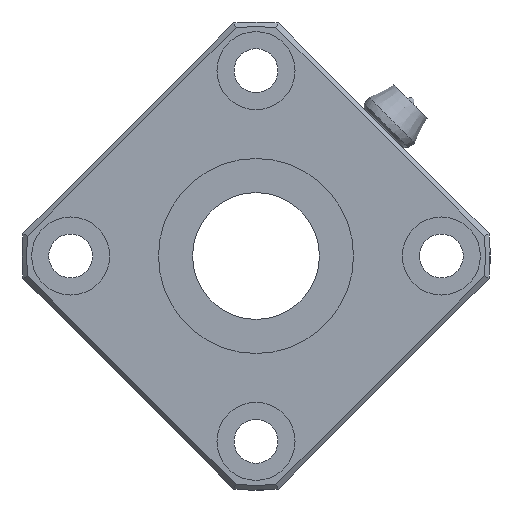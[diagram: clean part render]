
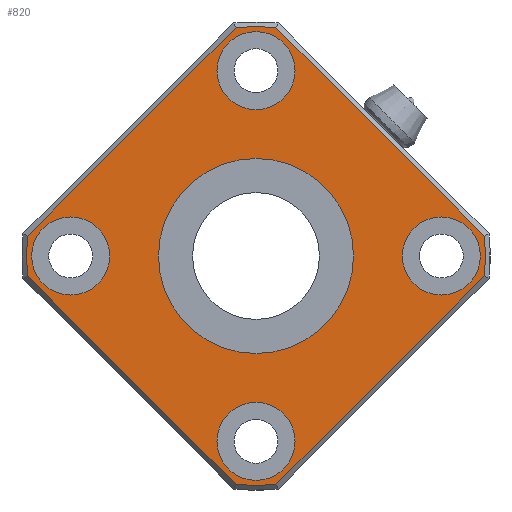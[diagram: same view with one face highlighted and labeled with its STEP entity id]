
A CAD part, left-side view. The second image highlights one B-rep face of the part: STEP entity #820.
In plain terms, the highlighted planar face has unit normal (-1, 0, 0).
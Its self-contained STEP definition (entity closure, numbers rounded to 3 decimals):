
#499=CARTESIAN_POINT('',(0.0,-23.411,-2.045));
#500=VERTEX_POINT('',#499);
#508=CARTESIAN_POINT('',(0.0,-2.045,-23.411));
#509=VERTEX_POINT('',#508);
#510=CARTESIAN_POINT('',(0.0,-23.411,-2.045));
#511=DIRECTION('',(0.0,0.707,-0.707));
#512=VECTOR('',#511,30.216);
#513=LINE('',#510,#512);
#514=EDGE_CURVE('',#500,#509,#513,.T.);
#541=CARTESIAN_POINT('',(0.0,2.045,-23.411));
#542=VERTEX_POINT('',#541);
#543=CARTESIAN_POINT('',(0.0,0.0,0.0));
#544=DIRECTION('',(1.0,0.0,0.0));
#545=DIRECTION('',(0.0,0.0,-1.0));
#546=AXIS2_PLACEMENT_3D('',#543,#544,#545);
#547=CIRCLE('',#546,23.5);
#548=EDGE_CURVE('',#509,#542,#547,.T.);
#572=CARTESIAN_POINT('',(0.0,23.411,-2.045));
#573=VERTEX_POINT('',#572);
#574=CARTESIAN_POINT('',(0.0,2.045,-23.411));
#575=DIRECTION('',(0.0,0.707,0.707));
#576=VECTOR('',#575,30.216);
#577=LINE('',#574,#576);
#578=EDGE_CURVE('',#542,#573,#577,.T.);
#597=CARTESIAN_POINT('',(0.0,23.411,2.045));
#598=VERTEX_POINT('',#597);
#599=CARTESIAN_POINT('',(0.0,0.0,0.0));
#600=DIRECTION('',(1.0,0.0,0.0));
#601=DIRECTION('',(0.0,0.0,1.0));
#602=AXIS2_PLACEMENT_3D('',#599,#600,#601);
#603=CIRCLE('',#602,23.5);
#604=EDGE_CURVE('',#573,#598,#603,.T.);
#623=CARTESIAN_POINT('',(0.0,2.045,23.411));
#624=VERTEX_POINT('',#623);
#625=CARTESIAN_POINT('',(0.0,23.411,2.045));
#626=DIRECTION('',(0.0,-0.707,0.707));
#627=VECTOR('',#626,30.216);
#628=LINE('',#625,#627);
#629=EDGE_CURVE('',#598,#624,#628,.T.);
#648=CARTESIAN_POINT('',(0.0,-2.045,23.411));
#649=VERTEX_POINT('',#648);
#650=CARTESIAN_POINT('',(0.0,0.0,0.0));
#651=DIRECTION('',(1.0,0.0,0.0));
#652=DIRECTION('',(0.0,0.0,1.0));
#653=AXIS2_PLACEMENT_3D('',#650,#651,#652);
#654=CIRCLE('',#653,23.5);
#655=EDGE_CURVE('',#624,#649,#654,.T.);
#674=CARTESIAN_POINT('',(0.0,-23.411,2.045));
#675=VERTEX_POINT('',#674);
#676=CARTESIAN_POINT('',(0.0,-2.045,23.411));
#677=DIRECTION('',(0.0,-0.707,-0.707));
#678=VECTOR('',#677,30.216);
#679=LINE('',#676,#678);
#680=EDGE_CURVE('',#649,#675,#679,.T.);
#705=CARTESIAN_POINT('',(0.0,0.0,0.0));
#706=DIRECTION('',(1.0,0.0,0.0));
#707=DIRECTION('',(0.0,0.0,1.0));
#708=AXIS2_PLACEMENT_3D('',#705,#706,#707);
#709=CIRCLE('',#708,23.5);
#710=EDGE_CURVE('',#675,#500,#709,.T.);
#750=CARTESIAN_POINT('',(0.0,0.0,12.));
#751=DIRECTION('',(-1.0,0.0,0.0));
#752=DIRECTION('',(0.0,0.0,1.0));
#753=AXIS2_PLACEMENT_3D('',#750,#751,#752);
#754=PLANE('',#753);
#755=ORIENTED_EDGE('',*,*,#514,.F.);
#756=ORIENTED_EDGE('',*,*,#710,.F.);
#757=ORIENTED_EDGE('',*,*,#680,.F.);
#758=ORIENTED_EDGE('',*,*,#655,.F.);
#759=ORIENTED_EDGE('',*,*,#629,.F.);
#760=ORIENTED_EDGE('',*,*,#604,.F.);
#761=ORIENTED_EDGE('',*,*,#578,.F.);
#762=ORIENTED_EDGE('',*,*,#548,.F.);
#763=EDGE_LOOP('',(#755,#756,#757,#758,#759,#760,#761,#762));
#764=FACE_OUTER_BOUND('',#763,.T.);
#765=CARTESIAN_POINT('',(0.0,0.0,10.));
#766=VERTEX_POINT('',#765);
#767=CARTESIAN_POINT('',(0.0,0.0,0.0));
#768=DIRECTION('',(-1.0,0.0,0.0));
#769=DIRECTION('',(0.0,0.0,1.0));
#770=AXIS2_PLACEMENT_3D('',#767,#768,#769);
#771=CIRCLE('',#770,10.);
#772=EDGE_CURVE('',#766,#766,#771,.T.);
#773=ORIENTED_EDGE('',*,*,#772,.F.);
#774=EDGE_LOOP('',(#773));
#775=FACE_BOUND('',#774,.T.);
#776=CARTESIAN_POINT('',(0.0,-15.0,0.));
#777=VERTEX_POINT('',#776);
#778=CARTESIAN_POINT('',(0.0,-19.0,0.));
#779=DIRECTION('',(1.0,0.0,0.0));
#780=DIRECTION('',(0.0,1.0,0.0));
#781=AXIS2_PLACEMENT_3D('',#778,#779,#780);
#782=CIRCLE('',#781,4.0);
#783=EDGE_CURVE('',#777,#777,#782,.T.);
#784=ORIENTED_EDGE('',*,*,#783,.T.);
#785=EDGE_LOOP('',(#784));
#786=FACE_BOUND('',#785,.T.);
#787=CARTESIAN_POINT('',(0.0,23.,0.));
#788=VERTEX_POINT('',#787);
#789=CARTESIAN_POINT('',(0.0,19.0,0.));
#790=DIRECTION('',(1.0,0.0,0.0));
#791=DIRECTION('',(0.0,1.0,0.0));
#792=AXIS2_PLACEMENT_3D('',#789,#790,#791);
#793=CIRCLE('',#792,4.0);
#794=EDGE_CURVE('',#788,#788,#793,.T.);
#795=ORIENTED_EDGE('',*,*,#794,.T.);
#796=EDGE_LOOP('',(#795));
#797=FACE_BOUND('',#796,.T.);
#798=CARTESIAN_POINT('',(0.0,4.,19.0));
#799=VERTEX_POINT('',#798);
#800=CARTESIAN_POINT('',(0.0,0.,19.0));
#801=DIRECTION('',(1.0,0.0,0.0));
#802=DIRECTION('',(0.0,1.0,0.0));
#803=AXIS2_PLACEMENT_3D('',#800,#801,#802);
#804=CIRCLE('',#803,4.0);
#805=EDGE_CURVE('',#799,#799,#804,.T.);
#806=ORIENTED_EDGE('',*,*,#805,.T.);
#807=EDGE_LOOP('',(#806));
#808=FACE_BOUND('',#807,.T.);
#809=CARTESIAN_POINT('',(0.0,4.,-19.0));
#810=VERTEX_POINT('',#809);
#811=CARTESIAN_POINT('',(0.0,0.,-19.0));
#812=DIRECTION('',(1.0,0.0,0.0));
#813=DIRECTION('',(0.0,1.0,0.0));
#814=AXIS2_PLACEMENT_3D('',#811,#812,#813);
#815=CIRCLE('',#814,4.0);
#816=EDGE_CURVE('',#810,#810,#815,.T.);
#817=ORIENTED_EDGE('',*,*,#816,.T.);
#818=EDGE_LOOP('',(#817));
#819=FACE_BOUND('',#818,.T.);
#820=ADVANCED_FACE('',(#764,#775,#786,#797,#808,#819),#754,.T.);
